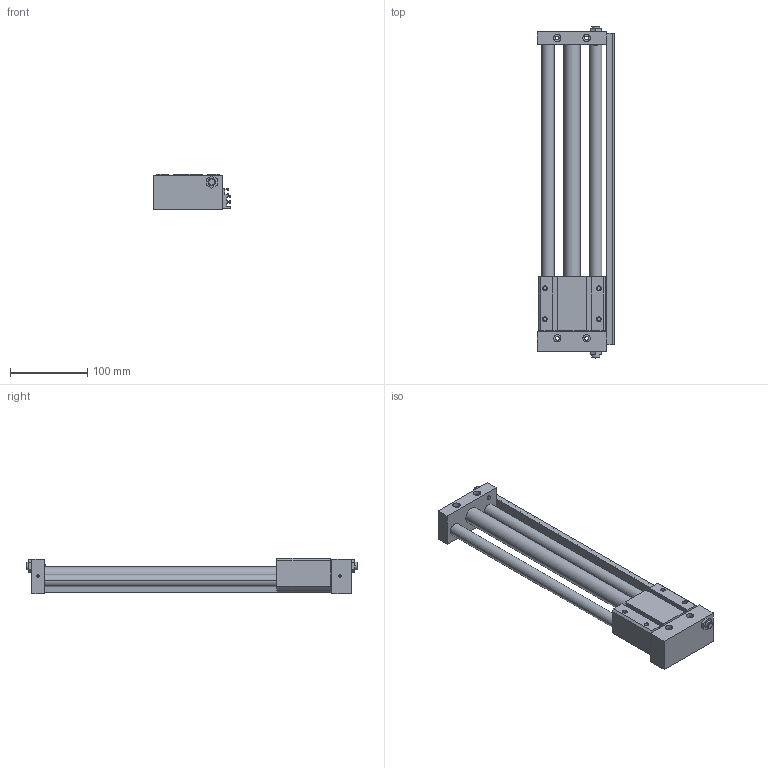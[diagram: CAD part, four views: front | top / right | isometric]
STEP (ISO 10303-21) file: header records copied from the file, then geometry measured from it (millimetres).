
FILE_DESCRIPTION((''),'2;1');
FILE_NAME('C:\Documents and Settings\Administrator\桌面\GYS\GYS20\GYSR20X300.stp','2012-03-06T20:21:58',('Administrator'),(''),'Autodesk Inventor 8','Autodesk Inventor 8','');
FILE_SCHEMA(('AUTOMOTIVE_DESIGN { 1 0 10303 214 1 1 1 1 }'));
Length unit declared in the file: millimetre
Products named in the file (3): GYSR20X300; GYS20X300; GYS20160X300
Assembly tree (2 placements, depth 2):
  GYSR20X300
    GYS20X300
    GYS20160X300
Bounding box: 100.5 x 431 x 46 mm (x, y, z)
Volume: 711505.8 mm3; surface area: 154707.3 mm2
Topology: 2 solids, 2 shells, 243 faces, 626 edges, 408 vertices
Faces by surface type: plane 133, cylinder 76, cone 28, bspline 6
Entity records: 7564 total; most frequent: CARTESIAN_POINT 1356, DIRECTION 1306, ORIENTED_EDGE 1252, EDGE_CURVE 626, AXIS2_PLACEMENT_3D 438, VECTOR 430, LINE 430, VERTEX_POINT 408
